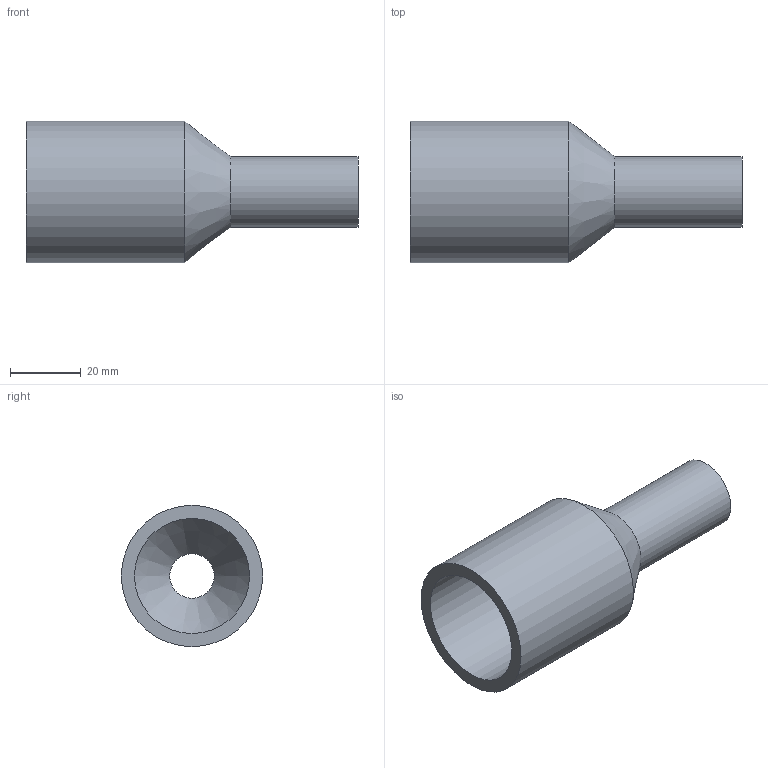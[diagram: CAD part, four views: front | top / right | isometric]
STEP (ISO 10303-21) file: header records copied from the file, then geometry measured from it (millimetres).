
FILE_DESCRIPTION(('Beschreibung'),'1');
FILE_NAME('V:/Ziel/25.91.03.103_SDR_11_PE100_040_020.STP', '2014-09-15T06:10:17',('Author'), ('Organization'), 'KCM Version 1.1.794.0', 'Kubotek KeyCreator', 'Authorization');
FILE_SCHEMA(('CONFIG_CONTROL_DESIGN'));
Length unit declared in the file: millimetre
Bounding box: 94 x 40 x 40 mm (x, y, z)
Volume: 30676.2 mm3; surface area: 17193.2 mm2
Topology: 1 solids, 1 shells, 8 faces, 22 edges, 24 vertices
Faces by surface type: cylinder 4, cone 2, plane 2
Full cylindrical faces by diameter (mm): 12.6 x1, 20 x1, 32.6 x1, 40 x1
Entity records: 321 total; most frequent: DIRECTION 48, CARTESIAN_POINT 39, ORIENTED_EDGE 28, AXIS2_PLACEMENT_3D 17, EDGE_CURVE 14, VECTOR 14, LINE 14, EDGE_LOOP 10
